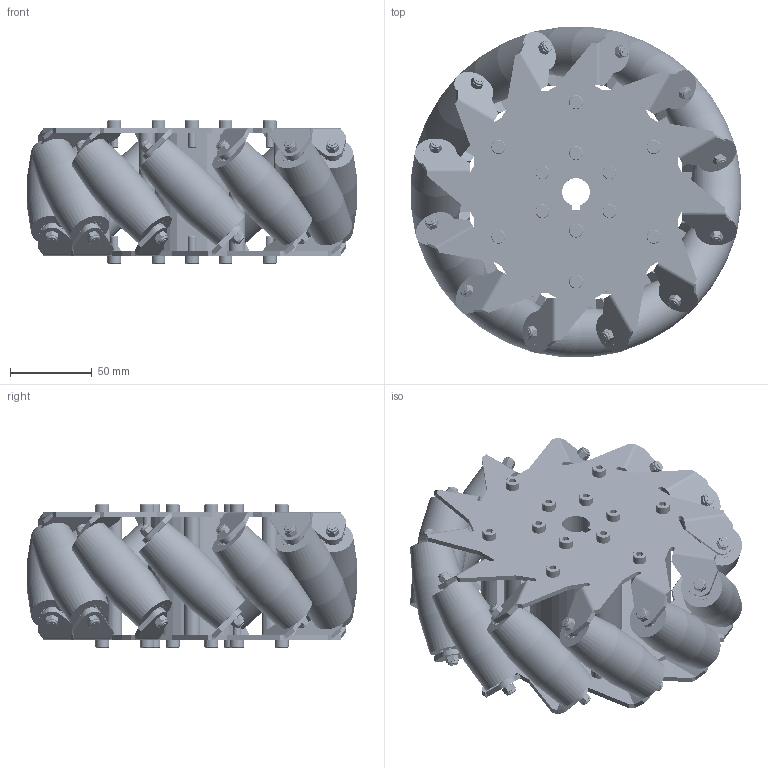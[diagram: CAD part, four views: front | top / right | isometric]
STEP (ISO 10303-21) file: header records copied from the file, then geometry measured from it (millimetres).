
FILE_DESCRIPTION (( 'STEP AP214' ), '1' );
FILE_NAME ('14128-M0.1.STEP', '2019-05-15T12:10:18', ( 'Windows 蚚誧' ), ( '' ), 'SwSTEP 2.0', 'SolidWorks 2019', '' );
FILE_SCHEMA (( 'AUTOMOTIVE_DESIGN' ));
Length unit declared in the file: millimetre
Products named in the file (24): 8寸45度12分车轮-小轮子组合(A版); 旮僱⑩粣創(625ZZ); 8寸45度12分车轮-铝棒(A版); 8寸45度12分车轮-轮片组合(A版); 8寸45度12分车轮-小轮子固定轴(A版); す菜朴4; 8寸45度轮子-中心链接体(A版); 14128-M0.1; 囀鞠褒蹟佪(M5X12); 滅侂蹟譫M4; 8渡45僅12煦陬謫-謫え(A唳); 8寸45度12分车轮-寸轮子(A版)
Assembly tree (143 placements, depth 3):
  14128-M0.1
    8寸45度轮子-中心链接体(A版)
    8寸45度12分车轮-轮片组合(A版)
      8渡45僅12煦陬謫-謫え(A唳)
      囀鞠褒蹟佪(M5X12)  x12
    8寸45度12分车轮-铝棒(A版)  x6
    8寸45度12分车轮-轮片组合(A版)
      8渡45僅12煦陬謫-謫え(A唳)
      囀鞠褒蹟佪(M5X12)  x12
    8寸45度12分车轮-小轮子组合(A版)
      8寸45度12分车轮-寸轮子(A版)
      旮僱⑩粣創(625ZZ)  x2
      8寸45度12分车轮-小轮子固定轴(A版)
      す菜朴4  x2
      滅侂蹟譫M4  x2
    8寸45度12分车轮-小轮子组合(A版)
      8寸45度12分车轮-寸轮子(A版)
      旮僱⑩粣創(625ZZ)  x2
      8寸45度12分车轮-小轮子固定轴(A版)
      す菜朴4  x2
      滅侂蹟譫M4  x2
    8寸45度12分车轮-小轮子组合(A版)
      8寸45度12分车轮-寸轮子(A版)
      旮僱⑩粣創(625ZZ)  x2
      8寸45度12分车轮-小轮子固定轴(A版)
      す菜朴4  x2
      滅侂蹟譫M4  x2
    8寸45度12分车轮-小轮子组合(A版)
      8寸45度12分车轮-寸轮子(A版)
      旮僱⑩粣創(625ZZ)  x2
      8寸45度12分车轮-小轮子固定轴(A版)
      す菜朴4  x2
      滅侂蹟譫M4  x2
    8寸45度12分车轮-小轮子组合(A版)
      8寸45度12分车轮-寸轮子(A版)
      旮僱⑩粣創(625ZZ)  x2
      8寸45度12分车轮-小轮子固定轴(A版)
      す菜朴4  x2
      滅侂蹟譫M4  x2
    8寸45度12分车轮-小轮子组合(A版)
      8寸45度12分车轮-寸轮子(A版)
      旮僱⑩粣創(625ZZ)  x2
      8寸45度12分车轮-小轮子固定轴(A版)
      す菜朴4  x2
      滅侂蹟譫M4  x2
    8寸45度12分车轮-小轮子组合(A版)
      8寸45度12分车轮-寸轮子(A版)
      旮僱⑩粣創(625ZZ)  x2
      8寸45度12分车轮-小轮子固定轴(A版)
      す菜朴4  x2
      滅侂蹟譫M4  x2
    8寸45度12分车轮-小轮子组合(A版)
      8寸45度12分车轮-寸轮子(A版)
      旮僱⑩粣創(625ZZ)  x2
      8寸45度12分车轮-小轮子固定轴(A版)
      す菜朴4  x2
      滅侂蹟譫M4  x2
    8寸45度12分车轮-小轮子组合(A版)
      8寸45度12分车轮-寸轮子(A版)
      旮僱⑩粣創(625ZZ)  x2
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Bounding box: 202.54 x 202.54 x 88 mm (x, y, z)
Volume: 854608.5 mm3; surface area: 313675.5 mm2
Topology: 345 solids, 345 shells, 3392 faces, 7860 edges, 4888 vertices
Faces by surface type: cylinder 1068, plane 1028, torus 600, sphere 384, cone 288, bspline 24
Entity records: 16149 total; most frequent: DIRECTION 2846, CARTESIAN_POINT 2842, ORIENTED_EDGE 2296, EDGE_CURVE 1148, AXIS2_PLACEMENT_3D 1118, VERTEX_POINT 722, LINE 610, VECTOR 610
